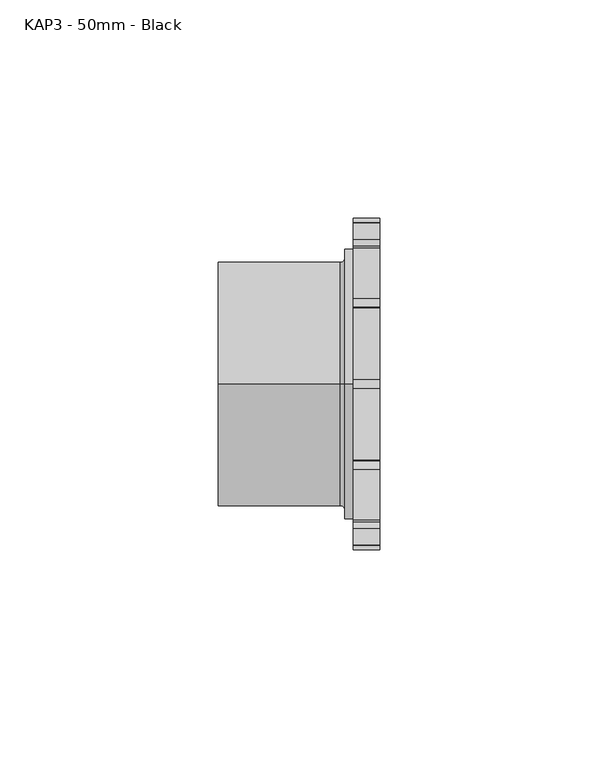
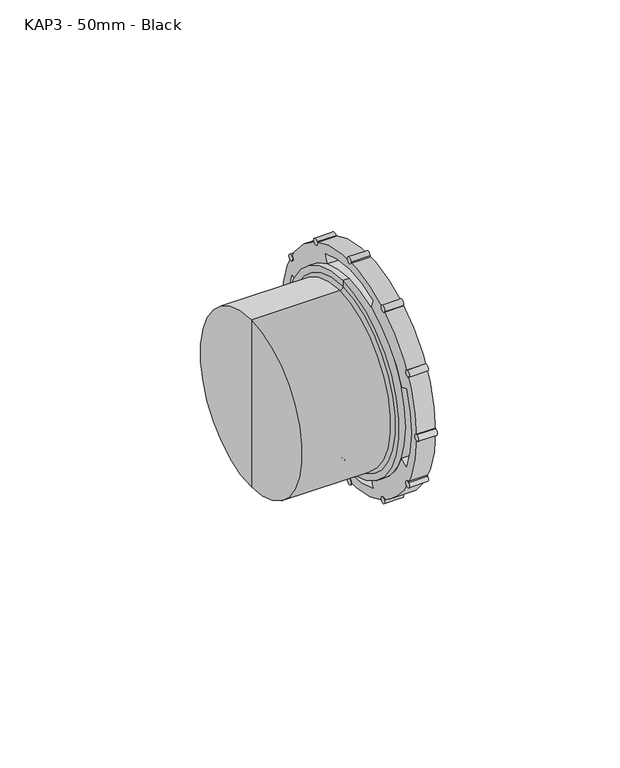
"""IFC4 building model written with IfcOpenShell, lengths in millimetres: pipe fitting geometry, MarleyPlumbingAndDrainage_PipeFitting_AccessPlug : KAP3 - 50mm - Black."""

from ifc_helpers import new_model, si_unit, point, frame, frame_2d, origin, place, context, project, spatial, polyline, circle_curve, ellipse_curve, trimmed, segment, composite_curve, outline, extrude, source, transform, mapped, element, save
from ifc_brep_helpers import plane_surface, cylinder_surface, revolved_surface, advanced_brep


def kap3_50mm_black_8042cce0(model_context):
    return source(origin(), model_context, "Body", "SolidModel", [
        extrude(outline(composite_curve([segment(trimmed(circle_curve(frame_2d((32.0429399, 18.5)), 1.0), [point((31.5429399, 19.3660254))], [point((32.5429399, 17.6339746))], False, "CARTESIAN"), True, "CONTINUOUS"), segment(trimmed(circle_curve(frame_2d((32.0429399, 18.5)), 1.0), [point((32.5429399, 17.6339746))], [point((31.5429399, 19.3660254))], False, "CARTESIAN"), True, "CONTINUOUS")], self_intersect=False)), frame((-330.6858175, 0.0, 0.0), z_axis=(1.0, 0.0, 0.0), x_axis=(0.0, 1.0, 0.0)), (0.0, 0.0, 1.0), 6.0),
        extrude(outline(composite_curve([segment(trimmed(circle_curve(frame_2d((37.0, 0.0)), 1.0), [point((37.0, 1.0))], [point((37.0, -1.0))], False, "CARTESIAN"), True, "CONTINUOUS"), segment(trimmed(circle_curve(frame_2d((37.0, 0.0)), 1.0), [point((37.0, -1.0))], [point((37.0, 1.0))], False, "CARTESIAN"), True, "CONTINUOUS")], self_intersect=False)), frame((-330.6858175, 0.0, 0.0), z_axis=(1.0, 0.0, 0.0), x_axis=(0.0, 1.0, 0.0)), (0.0, 0.0, 1.0), 6.0),
        extrude(outline(composite_curve([segment(trimmed(circle_curve(frame_2d((32.0429399, -18.5)), 1.0), [point((32.5429399, -17.6339746))], [point((31.5429399, -19.3660254))], False, "CARTESIAN"), True, "CONTINUOUS"), segment(trimmed(circle_curve(frame_2d((32.0429399, -18.5)), 1.0), [point((31.5429399, -19.3660254))], [point((32.5429399, -17.6339746))], False, "CARTESIAN"), True, "CONTINUOUS")], self_intersect=False)), frame((-330.6858175, 0.0, 0.0), z_axis=(1.0, 0.0, 0.0), x_axis=(0.0, 1.0, 0.0)), (0.0, 0.0, 1.0), 6.0),
        extrude(outline(composite_curve([segment(trimmed(circle_curve(frame_2d((18.5, -32.0429399)), 1.0), [point((19.3660254, -31.5429399))], [point((17.6339746, -32.5429399))], False, "CARTESIAN"), True, "CONTINUOUS"), segment(trimmed(circle_curve(frame_2d((18.5, -32.0429399)), 1.0), [point((17.6339746, -32.5429399))], [point((19.3660254, -31.5429399))], False, "CARTESIAN"), True, "CONTINUOUS")], self_intersect=False)), frame((-330.6858175, 0.0, 0.0), z_axis=(1.0, 0.0, 0.0), x_axis=(0.0, 1.0, 0.0)), (0.0, 0.0, 1.0), 6.0),
        extrude(outline(composite_curve([segment(trimmed(circle_curve(frame_2d((0.0, -37.0)), 1.0), [point((1.0, -37.0))], [point((-1.0, -37.0))], False, "CARTESIAN"), True, "CONTINUOUS"), segment(trimmed(circle_curve(frame_2d((0.0, -37.0)), 1.0), [point((-1.0, -37.0))], [point((1.0, -37.0))], False, "CARTESIAN"), True, "CONTINUOUS")], self_intersect=False)), frame((-330.6858175, 0.0, 0.0), z_axis=(1.0, 0.0, 0.0), x_axis=(0.0, 1.0, 0.0)), (0.0, 0.0, 1.0), 6.0),
        extrude(outline(composite_curve([segment(trimmed(circle_curve(frame_2d((-18.5, -32.0429399)), 1.0), [point((-17.6339746, -32.5429399))], [point((-19.3660254, -31.5429399))], False, "CARTESIAN"), True, "CONTINUOUS"), segment(trimmed(circle_curve(frame_2d((-18.5, -32.0429399)), 1.0), [point((-19.3660254, -31.5429399))], [point((-17.6339746, -32.5429399))], False, "CARTESIAN"), True, "CONTINUOUS")], self_intersect=False)), frame((-330.6858175, 0.0, 0.0), z_axis=(1.0, 0.0, 0.0), x_axis=(0.0, 1.0, 0.0)), (0.0, 0.0, 1.0), 6.0),
        extrude(outline(composite_curve([segment(trimmed(circle_curve(frame_2d((-32.0429399, -18.5)), 1.0), [point((-31.5429399, -19.3660254))], [point((-32.5429399, -17.6339746))], False, "CARTESIAN"), True, "CONTINUOUS"), segment(trimmed(circle_curve(frame_2d((-32.0429399, -18.5)), 1.0), [point((-32.5429399, -17.6339746))], [point((-31.5429399, -19.3660254))], False, "CARTESIAN"), True, "CONTINUOUS")], self_intersect=False)), frame((-330.6858175, 0.0, 0.0), z_axis=(1.0, 0.0, 0.0), x_axis=(0.0, 1.0, 0.0)), (0.0, 0.0, 1.0), 6.0),
        extrude(outline(composite_curve([segment(trimmed(circle_curve(frame_2d((-37.0, 0.0)), 1.0), [point((-37.0, -1.0))], [point((-37.0, 1.0))], False, "CARTESIAN"), True, "CONTINUOUS"), segment(trimmed(circle_curve(frame_2d((-37.0, 0.0)), 1.0), [point((-37.0, 1.0))], [point((-37.0, -1.0))], False, "CARTESIAN"), True, "CONTINUOUS")], self_intersect=False)), frame((-330.6858175, 0.0, 0.0), z_axis=(1.0, 0.0, 0.0), x_axis=(0.0, 1.0, 0.0)), (0.0, 0.0, 1.0), 6.0),
        extrude(outline(composite_curve([segment(trimmed(circle_curve(frame_2d((-32.0429399, 18.5)), 1.0), [point((-32.5429399, 17.6339746))], [point((-31.5429399, 19.3660254))], False, "CARTESIAN"), True, "CONTINUOUS"), segment(trimmed(circle_curve(frame_2d((-32.0429399, 18.5)), 1.0), [point((-31.5429399, 19.3660254))], [point((-32.5429399, 17.6339746))], False, "CARTESIAN"), True, "CONTINUOUS")], self_intersect=False)), frame((-330.6858175, 0.0, 0.0), z_axis=(1.0, 0.0, 0.0), x_axis=(0.0, 1.0, 0.0)), (0.0, 0.0, 1.0), 6.0),
        extrude(outline(composite_curve([segment(trimmed(circle_curve(frame_2d((-18.5, 32.0429399)), 1.0), [point((-19.3660254, 31.5429399))], [point((-17.6339746, 32.5429399))], False, "CARTESIAN"), True, "CONTINUOUS"), segment(trimmed(circle_curve(frame_2d((-18.5, 32.0429399)), 1.0), [point((-17.6339746, 32.5429399))], [point((-19.3660254, 31.5429399))], False, "CARTESIAN"), True, "CONTINUOUS")], self_intersect=False)), frame((-330.6858175, 0.0, 0.0), z_axis=(1.0, 0.0, 0.0), x_axis=(0.0, 1.0, 0.0)), (0.0, 0.0, 1.0), 6.0),
        extrude(outline(composite_curve([segment(trimmed(circle_curve(frame_2d((18.5, 32.0429399)), 1.0), [point((17.6339746, 32.5429399))], [point((19.3660254, 31.5429399))], False, "CARTESIAN"), True, "CONTINUOUS"), segment(trimmed(circle_curve(frame_2d((18.5, 32.0429399)), 1.0), [point((19.3660254, 31.5429399))], [point((17.6339746, 32.5429399))], False, "CARTESIAN"), True, "CONTINUOUS")], self_intersect=False)), frame((-330.6858175, 0.0, 0.0), z_axis=(1.0, 0.0, 0.0), x_axis=(0.0, 1.0, 0.0)), (0.0, 0.0, 1.0), 6.0),
        extrude(outline(composite_curve([segment(trimmed(circle_curve(frame_2d((0.0, 37.0)), 1.0), [point((-1.0, 37.0))], [point((1.0, 37.0))], False, "CARTESIAN"), True, "CONTINUOUS"), segment(trimmed(circle_curve(frame_2d((0.0, 37.0)), 1.0), [point((1.0, 37.0))], [point((-1.0, 37.0))], False, "CARTESIAN"), True, "CONTINUOUS")], self_intersect=False)), frame((-330.6858175, 0.0, 0.0), z_axis=(1.0, 0.0, 0.0), x_axis=(0.0, 1.0, 0.0)), (0.0, 0.0, 1.0), 6.0),
        advanced_brep(
        [(-324.6858175, -37.0, 0.0), (-324.6858175, 37.0, 0.0), (-324.6858175, -13.0112367, -31.4119041), (-324.6858175, -11.8631864, -28.6402655), (-324.6858175, 11.8631864, -28.6402655), (-324.6858175, 13.0112367, -31.4119041), (-324.6858175, 31.4119041, -13.0112367), (-324.6858175, 28.6402655, -11.8631864), (-324.6858175, 28.6402655, 11.8631864), (-324.6858175, 31.4119041, 13.0112367), (-324.6858175, -28.6402655, 11.8631864), (-324.6858175, -28.6402655, -11.8631864), (-324.6858175, -31.4119041, -13.0112367), (-324.6858175, -31.4119041, 13.0112367), (-324.6858175, -11.8631864, 28.6402655), (-324.6858175, -13.0112367, 31.4119041), (-324.6858175, 13.0112367, 31.4119041), (-324.6858175, 11.8631864, 28.6402655), (-330.6858175, -37.0, 0.0), (-330.6858175, 37.0, 0.0), (-330.6858175, -11.8631864, -28.6402655), (-330.6858175, -13.0112367, -31.4119041), (-330.6858175, 13.0112367, -31.4119041), (-330.6858175, 11.8631864, -28.6402655), (-330.6858175, 28.6402655, -11.8631864), (-330.6858175, 31.4119041, -13.0112367), (-330.6858175, 31.4119041, 13.0112367), (-330.6858175, 28.6402655, 11.8631864), (-330.6858175, 11.8631864, 28.6402655), (-330.6858175, 13.0112367, 31.4119041), (-330.6858175, -13.0112367, 31.4119041), (-330.6858175, -11.8631864, 28.6402655), (-330.6858175, -28.6402655, 11.8631864), (-330.6858175, -31.4119041, 13.0112367), (-330.6858175, -31.4119041, -13.0112367), (-330.6858175, -28.6402655, -11.8631864), (-330.6858175, 0.0, -31.0), (-330.6858175, 0.0, 31.0), (-332.6858175, 0.0, -31.0), (-332.6858175, 0.0, 31.0), (-332.6858175, 0.0, -29.0), (-332.6858175, 0.0, 29.0), (-333.6858175, 0.0, -28.0), (-333.6858175, 0.0, 28.0), (-361.6858175, 0.0, -28.0), (-361.6858175, 0.0, 28.0), (-361.6858175, 0.0, 0.0)],
        [
            (0, 1, circle_curve(frame((-324.6858175, 0.0, 0.0), z_axis=(1.0, 0.0, 0.0), x_axis=(0.0, 1.0, 0.0)), 37.0)),
            (1, 0, circle_curve(frame((-324.6858175, 0.0, 0.0), z_axis=(1.0, 0.0, 0.0), x_axis=(0.0, 1.0, 0.0)), 37.0)),
            (2, 3),
            (3, 4, circle_curve(frame((-324.6858175, 0.0, 0.0), z_axis=(1.0, 0.0, 0.0), x_axis=(0.0, 1.0, 0.0)), 31.0)),
            (4, 5),
            (5, 2, circle_curve(frame((-324.6858175, 0.0, 0.0), z_axis=(-1.0, 0.0, 0.0), x_axis=(0.0, 1.0, 0.0)), 34.0)),
            (6, 7),
            (7, 8, circle_curve(frame((-324.6858175, 0.0, 0.0), z_axis=(1.0, 0.0, 0.0), x_axis=(0.0, 1.0, 0.0)), 31.0)),
            (8, 9),
            (9, 6, circle_curve(frame((-324.6858175, 0.0, 0.0), z_axis=(-1.0, 0.0, 0.0), x_axis=(0.0, 1.0, 0.0)), 34.0)),
            (10, 11, circle_curve(frame((-324.6858175, 0.0, 0.0), z_axis=(1.0, 0.0, 0.0), x_axis=(0.0, 1.0, 0.0)), 31.0)),
            (11, 12),
            (12, 13, circle_curve(frame((-324.6858175, 0.0, 0.0), z_axis=(-1.0, 0.0, 0.0), x_axis=(0.0, 1.0, 0.0)), 34.0)),
            (13, 10),
            (14, 15),
            (15, 16, circle_curve(frame((-324.6858175, 0.0, 0.0), z_axis=(-1.0, 0.0, 0.0), x_axis=(0.0, 1.0, 0.0)), 34.0)),
            (16, 17),
            (17, 14, circle_curve(frame((-324.6858175, 0.0, 0.0), z_axis=(1.0, 0.0, 0.0), x_axis=(0.0, 1.0, 0.0)), 31.0)),
            (18, 19, circle_curve(frame((-330.6858175, 0.0, 0.0), z_axis=(-1.0, 0.0, 0.0), x_axis=(0.0, 1.0, 0.0)), 37.0)),
            (19, 18, circle_curve(frame((-330.6858175, 0.0, 0.0), z_axis=(-1.0, 0.0, 0.0), x_axis=(0.0, 1.0, 0.0)), 37.0)),
            (20, 21),
            (21, 22, circle_curve(frame((-330.6858175, 0.0, 0.0), z_axis=(1.0, 0.0, 0.0), x_axis=(0.0, 1.0, 0.0)), 34.0)),
            (22, 23),
            (23, 24, circle_curve(frame((-330.6858175, 0.0, 0.0), z_axis=(1.0, 0.0, 0.0), x_axis=(0.0, 0.0, 1.0)), 31.0)),
            (24, 25),
            (25, 26, circle_curve(frame((-330.6858175, 0.0, 0.0), z_axis=(1.0, 0.0, 0.0), x_axis=(0.0, 1.0, 0.0)), 34.0)),
            (26, 27),
            (27, 28, circle_curve(frame((-330.6858175, 0.0, 0.0), z_axis=(1.0, 0.0, 0.0), x_axis=(0.0, 0.0, 1.0)), 31.0)),
            (28, 29),
            (29, 30, circle_curve(frame((-330.6858175, 0.0, 0.0), z_axis=(1.0, 0.0, 0.0), x_axis=(0.0, 1.0, 0.0)), 34.0)),
            (30, 31),
            (31, 32, circle_curve(frame((-330.6858175, 0.0, 0.0), z_axis=(1.0, 0.0, 0.0), x_axis=(0.0, 0.0, 1.0)), 31.0)),
            (32, 33),
            (33, 34, circle_curve(frame((-330.6858175, 0.0, 0.0), z_axis=(1.0, 0.0, 0.0), x_axis=(0.0, 1.0, 0.0)), 34.0)),
            (34, 35),
            (35, 20, circle_curve(frame((-330.6858175, 0.0, 0.0), z_axis=(1.0, 0.0, 0.0), x_axis=(0.0, 0.0, 1.0)), 31.0)),
            (0, 18),
            (19, 1),
            (2, 21),
            (20, 3),
            (5, 22),
            (4, 23),
            (20, 36, circle_curve(frame((-330.6858175, 0.0, 0.0), z_axis=(1.0, 0.0, 0.0), x_axis=(0.0, 1.0, 0.0)), 31.0)),
            (36, 23, circle_curve(frame((-330.6858175, 0.0, 0.0), z_axis=(1.0, 0.0, 0.0), x_axis=(0.0, 1.0, 0.0)), 31.0)),
            (6, 25),
            (24, 7),
            (9, 26),
            (8, 27),
            (24, 27, circle_curve(frame((-330.6858175, 0.0, 0.0), z_axis=(1.0, 0.0, 0.0), x_axis=(0.0, 1.0, 0.0)), 31.0)),
            (10, 32),
            (32, 35, circle_curve(frame((-330.6858175, 0.0, 0.0), z_axis=(1.0, 0.0, 0.0), x_axis=(0.0, 1.0, 0.0)), 31.0)),
            (35, 11),
            (13, 33),
            (12, 34),
            (14, 31),
            (30, 15),
            (17, 28),
            (28, 37, circle_curve(frame((-330.6858175, 0.0, 0.0), z_axis=(1.0, 0.0, 0.0), x_axis=(0.0, 1.0, 0.0)), 31.0)),
            (37, 31, circle_curve(frame((-330.6858175, 0.0, 0.0), z_axis=(1.0, 0.0, 0.0), x_axis=(0.0, 1.0, 0.0)), 31.0)),
            (16, 29),
            (38, 39, circle_curve(frame((-332.6858175, 0.0, 0.0), z_axis=(1.0, 0.0, 0.0), x_axis=(0.0, 0.0, 1.0)), 31.0)),
            (39, 37),
            (36, 38),
            (39, 38, circle_curve(frame((-332.6858175, 0.0, 0.0), z_axis=(1.0, 0.0, 0.0), x_axis=(0.0, 0.0, 1.0)), 31.0)),
            (38, 40),
            (40, 41, circle_curve(frame((-332.6858175, 0.0, 0.0), z_axis=(1.0, 0.0, 0.0), x_axis=(0.0, 0.0, 1.0)), 29.0)),
            (41, 39),
            (41, 40, circle_curve(frame((-332.6858175, 0.0, 0.0), z_axis=(1.0, 0.0, 0.0), x_axis=(0.0, 0.0, 1.0)), 29.0)),
            (40, 42, circle_curve(frame((-333.6858175, 0.0, -29.0), z_axis=(0.0, -1.0, 0.0), x_axis=(1.0, 0.0, 0.0)), 1.0)),
            (42, 43, circle_curve(frame((-333.6858175, 0.0, 0.0), z_axis=(1.0, 0.0, 0.0), x_axis=(0.0, 0.0, 1.0)), 28.0)),
            (43, 41, circle_curve(frame((-333.6858175, 0.0, 29.0), z_axis=(0.0, -1.0, 0.0), x_axis=(1.0, 0.0, 0.0)), 1.0)),
            (43, 42, circle_curve(frame((-333.6858175, 0.0, 0.0), z_axis=(1.0, 0.0, 0.0), x_axis=(0.0, 0.0, 1.0)), 28.0)),
            (42, 44),
            (44, 45, circle_curve(frame((-361.6858175, 0.0, 0.0), z_axis=(1.0, 0.0, 0.0), x_axis=(0.0, 0.0, 1.0)), 28.0)),
            (45, 43),
            (45, 44, circle_curve(frame((-361.6858175, 0.0, 0.0), z_axis=(1.0, 0.0, 0.0), x_axis=(0.0, 0.0, 1.0)), 28.0)),
            (44, 46),
            (46, 45),
        ],
        [
            plane_surface(frame((-324.6858175, 37.0, 0.0), z_axis=(1.0, 0.0, 0.0), x_axis=(0.0, 0.0, 1.0))),
            plane_surface(frame((-330.6858175, 37.0, 0.0), z_axis=(-1.0, 0.0, 0.0), x_axis=(0.0, 0.0, -1.0))),
            cylinder_surface(frame((-330.6858175, 0.0, 0.0), z_axis=(1.0, 0.0, 0.0), x_axis=(0.0, 1.0, 0.0)), 37.0),
            plane_surface(frame((-324.6858175, -11.8631864, -28.6402655), z_axis=(0.0, 0.9238795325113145, -0.3826834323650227), x_axis=(-1.0, 0.0, 0.0))),
            revolved_surface(polyline([(-324.6858175, 34.0, 0.0), (-330.6858175, 34.0, 0.0)]), (-330.6858175, 0.0, 0.0), (1.0, 0.0, 0.0)),
            plane_surface(frame((-324.6858175, 13.0112367, -31.4119041), z_axis=(0.0, -0.9238795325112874, -0.38268343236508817), x_axis=(-1.0, 0.0, 0.0))),
            cylinder_surface(frame((-330.6858175, 0.0, 0.0), z_axis=(-1.0, 0.0, 0.0), x_axis=(0.0, 1.0, 0.0)), 31.0),
            plane_surface(frame((-324.6858175, 28.6402655, -11.8631864), z_axis=(0.0, 0.38268343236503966, 0.9238795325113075), x_axis=(-1.0, 0.0, 0.0))),
            plane_surface(frame((-324.6858175, 31.4119041, 13.0112367), z_axis=(0.0, 0.3826834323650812, -0.9238795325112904), x_axis=(-1.0, 0.0, 0.0))),
            plane_surface(frame((-324.6858175, -28.6402655, 11.8631864), z_axis=(0.0, -0.382683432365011, -0.9238795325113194), x_axis=(-1.0, 0.0, 0.0))),
            plane_surface(frame((-324.6858175, -31.4119041, -13.0112367), z_axis=(0.0, -0.3826834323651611, 0.9238795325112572), x_axis=(-1.0, 0.0, 0.0))),
            plane_surface(frame((-324.6858175, -13.0112367, 31.4119041), z_axis=(0.0, 0.9238795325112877, 0.38268343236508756), x_axis=(-1.0, 0.0, 0.0))),
            plane_surface(frame((-324.6858175, 11.8631864, 28.6402655), z_axis=(0.0, -0.9238795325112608, 0.3826834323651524), x_axis=(-1.0, 0.0, 0.0))),
            cylinder_surface(frame((-1520.0299635, 0.0, 0.0), z_axis=(-1.0, 0.0, 0.0), x_axis=(0.0, 0.0, 1.0)), 31.0),
            plane_surface(frame((-332.6858175, 0.0, 0.0), z_axis=(-1.0, 0.0, 0.0), x_axis=(0.0, 0.0, 1.0))),
            revolved_surface(trimmed(ellipse_curve(frame((-333.6858175, 0.0, 29.0), z_axis=(0.0, 1.0, 0.0), x_axis=(1.0, 0.0, 0.0)), 1.0, 1.0), [point((-332.6858175, 0.0, 29.0))], [point((-333.6858175, 0.0, 28.0))], True, "CARTESIAN"), (-1520.0299635, 0.0, 0.0), (-1.0, 0.0, 0.0)),
            cylinder_surface(frame((-1520.0299635, 0.0, 0.0), z_axis=(-1.0, 0.0, 0.0), x_axis=(0.0, 0.0, 1.0)), 28.0),
            plane_surface(frame((-361.6858175, 0.0, 0.0), z_axis=(-1.0, 0.0, 0.0), x_axis=(0.0, 0.0, 1.0))),
        ],
        [
            (0, [[1, 2], [3, 4, 5, 6], [7, 8, 9, 10], [11, 12, 13, 14], [15, 16, 17, 18]]),
            (1, [[19, 20], [21, 22, 23, 24, 25, 26, 27, 28, 29, 30, 31, 32, 33, 34, 35, 36]]),
            (2, [[-1, 37, -20, 38]]),
            (2, [[-2, -38, -19, -37]]),
            (3, [[39, -21, 40, -3]]),
            (4, [[-39, -6, 41, -22]]),
            (5, [[-41, -5, 42, -23]]),
            (6, [[-40, 43, 44, -42, -4]]),
            (7, [[45, -25, 46, -7]]),
            (4, [[-45, -10, 47, -26]]),
            (8, [[-47, -9, 48, -27]]),
            (6, [[-46, 49, -48, -8]]),
            (6, [[50, 51, 52, -11]]),
            (9, [[-50, -14, 53, -33]]),
            (4, [[-53, -13, 54, -34]]),
            (10, [[-52, -35, -54, -12]]),
            (11, [[55, -31, 56, -15]]),
            (6, [[-55, -18, 57, 58, 59]]),
            (12, [[-57, -17, 60, -29]]),
            (4, [[-56, -30, -60, -16]]),
            (13, [[61, 62, -58, -28, -49, -24, -44, 63]]),
            (13, [[-62, 64, -63, -43, -36, -51, -32, -59]]),
            (14, [[-61, 65, 66, 67]]),
            (14, [[-64, -67, 68, -65]]),
            (15, [[-66, 69, 70, 71]]),
            (15, [[-68, -71, 72, -69]]),
            (16, [[-70, 73, 74, 75]]),
            (16, [[-72, -75, 76, -73]]),
            (17, [[-74, 77, 78]]),
            (17, [[-76, -78, -77]]),
        ],
    ),
    ])


if __name__ == "__main__":
    model = new_model("IFC4")
    model_context = context("Model", 3, world=origin())
    ifc_project = project(units=[si_unit("LENGTHUNIT", "METRE", prefix="MILLI")], contexts=[model_context])
    site = spatial("IfcSite", under=ifc_project)
    building = spatial("IfcBuilding", under=site)
    placement = place(None, origin())
    kap3_50mm_black_shape = kap3_50mm_black_8042cce0(model_context)
    element("IfcPipeFitting", 1, ObjectType="MarleyPlumbingAndDrainage_PipeFitting_AccessPlug : KAP3 - 50mm - Black", at=placement, inside=building, context=model_context, shape_type="MappedRepresentation", body=[
        mapped(kap3_50mm_black_shape, transform((0.0, 0.0, 0.0), x_axis=(1.0, 0.0, 0.0), y_axis=(0.0, 1.0, 0.0), z_axis=(0.0, 0.0, 1.0))),
    ])
    save(model, "model.ifc")
